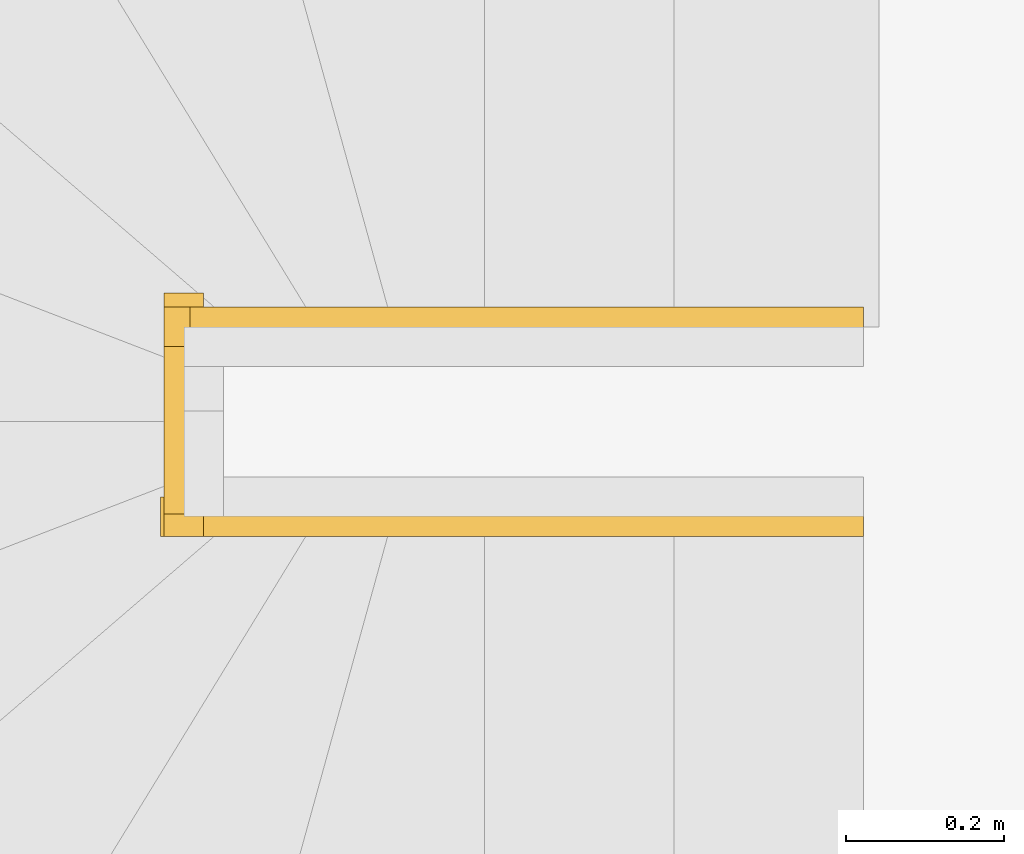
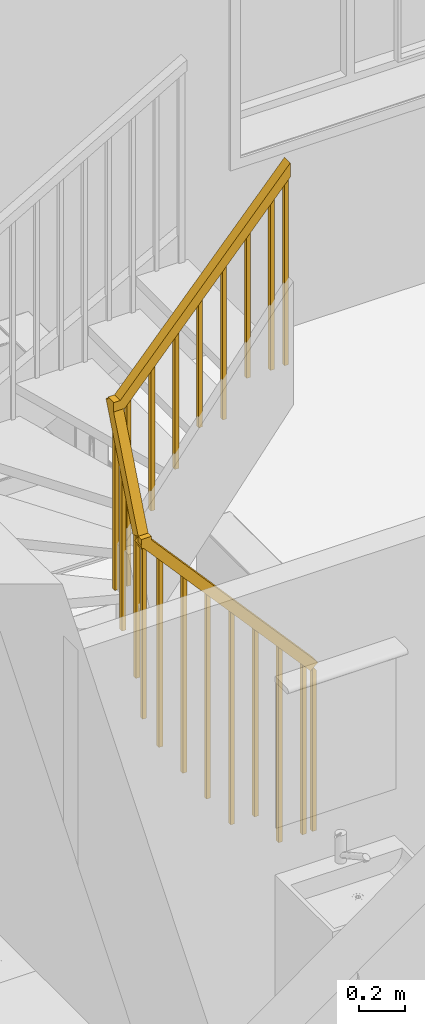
# One storey, part 26 of 65: 1 railing, 1 element without a shape of its own.
"""IFC2X3 building model written with IfcOpenShell, lengths in millimetres."""

from ifc_helpers import new_model, entity, si_unit, converted_unit, direction, frame, origin, place, context, subcontext, project, spatial, faceted_brep, material, type_object, element, aggregate, save


model = new_model("IFC2X3")

# Units and contexts
model_context = context("Model", 3, precision=0.01, world=origin(), true_north=direction((0.0, 1.0)))
body_context = subcontext(model_context, "Body", "Model", "MODEL_VIEW")
ifc_project = project(units=[si_unit("LENGTHUNIT", "METRE", prefix="MILLI"), si_unit("AREAUNIT", "SQUARE_METRE"), si_unit("VOLUMEUNIT", "CUBIC_METRE"), converted_unit("PLANEANGLEUNIT", "DEGREE", entity("IfcPlaneAngleMeasure", 0.017453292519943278), si_unit("PLANEANGLEUNIT", "RADIAN"), dimensions=[0, 0, 0, 0, 0, 0, 0])], contexts=[model_context])

# Site, building, storey
site_placement = place(None, origin())
site = spatial("IfcSite", under=ifc_project, at=site_placement, Name="Default", CompositionType="ELEMENT")
building_placement = place(site_placement, origin())
building = spatial("IfcBuilding", under=site, at=building_placement, CompositionType="ELEMENT")
storey_placement = place(building_placement, origin())
storey = spatial("IfcBuildingStorey", under=building, at=storey_placement, Name="Et. 1", CompositionType="ELEMENT", Elevation=0.0)

# Stair, railing
type_product = type_object("IfcTypeProduct", Name="Assembled Stair:Tretrapp - Åpne trinn m/ vanger")
stair_placement = place(storey_placement, origin())
stair = element("IfcStair", 1, at=stair_placement, inside=storey, type_object=type_product, Name="Assembled Stair:Stair", ShapeType="NOTDEFINED")
ifc_material = material(Name="Metall - Malt - MØRK GRÅ MATT")
railing_type = type_object("IfcRailingType", Name="Railing:900mm", PredefinedType="NOTDEFINED")
railing_placement = place(stair_placement, frame((17244.08765270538, 14144.751787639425, 178.73333333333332)))
railing = element("IfcRailing", 2, at=railing_placement, type_object=railing_type, material=ifc_material, Name="Railing:900mm", PredefinedType="NOTDEFINED", context=body_context, shape_type="Brep", body=[
    faceted_brep([(799.5697545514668, 275.8000000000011, 3249.8664435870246), (799.5697545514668, 275.8000000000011, 2323.5333333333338), (799.5697545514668, 255.8000000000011, 2323.5333333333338), (799.5697545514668, 255.8000000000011, 3249.8664435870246), (819.5697545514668, 255.8000000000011, 2323.5333333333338), (819.5697545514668, 255.8000000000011, 3272.3984052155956), (819.5697545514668, 275.8000000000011, 2323.5333333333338), (819.5697545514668, 275.8000000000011, 3272.3984052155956)], [[[0, 1, 2, 3]], [[3, 2, 4, 5]], [[5, 4, 6, 7]], [[1, 0, 7, 6]], [[0, 3, 5, 7]], [[2, 1, 6, 4]]]),
    faceted_brep([(679.5697545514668, 275.8000000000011, 3114.674673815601), (679.5697545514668, 275.8000000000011, 2323.5333333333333), (679.5697545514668, 255.8000000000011, 2323.5333333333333), (679.5697545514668, 255.8000000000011, 3114.674673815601), (699.5697545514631, 255.8000000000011, 2323.5333333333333), (699.5697545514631, 255.8000000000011, 3137.2066354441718), (699.5697545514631, 275.8000000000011, 2323.5333333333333), (699.5697545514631, 275.8000000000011, 3137.2066354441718)], [[[0, 1, 2, 3]], [[3, 2, 4, 5]], [[5, 4, 6, 7]], [[1, 0, 7, 6]], [[0, 3, 5, 7]], [[2, 1, 6, 4]]]),
    faceted_brep([(559.5697545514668, 275.8000000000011, 2979.482904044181), (559.5697545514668, 275.8000000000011, 2144.8000000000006), (559.5697545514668, 255.8000000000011, 2144.8000000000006), (559.5697545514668, 255.8000000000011, 2979.482904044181), (579.5697545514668, 255.8000000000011, 2144.8000000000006), (579.5697545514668, 255.8000000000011, 3002.0148656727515), (579.5697545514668, 275.8000000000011, 2144.8000000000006), (579.5697545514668, 275.8000000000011, 3002.0148656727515)], [[[0, 1, 2, 3]], [[3, 2, 4, 5]], [[5, 4, 6, 7]], [[1, 0, 7, 6]], [[0, 3, 5, 7]], [[2, 1, 6, 4]]]),
    faceted_brep([(439.56975455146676, 275.8000000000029, 2844.291134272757), (439.56975455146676, 275.8000000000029, 2144.8000000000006), (439.56975455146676, 255.8000000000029, 2144.8000000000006), (439.56975455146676, 255.8000000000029, 2844.291134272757), (459.56975455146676, 255.8000000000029, 2144.8000000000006), (459.56975455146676, 255.8000000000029, 2866.823095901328), (459.56975455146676, 275.8000000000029, 2144.8000000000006), (459.56975455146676, 275.8000000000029, 2866.823095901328)], [[[0, 1, 2, 3]], [[3, 2, 4, 5]], [[5, 4, 6, 7]], [[1, 0, 7, 6]], [[0, 3, 5, 7]], [[2, 1, 6, 4]]]),
    faceted_brep([(319.5697545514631, 275.8000000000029, 2709.099364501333), (319.5697545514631, 275.8000000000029, 1966.0666666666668), (319.5697545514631, 255.8000000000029, 1966.0666666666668), (319.5697545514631, 255.8000000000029, 2709.099364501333), (339.5697545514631, 255.8000000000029, 1966.0666666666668), (339.5697545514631, 255.8000000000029, 2731.6313261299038), (339.5697545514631, 275.8000000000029, 1966.0666666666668), (339.5697545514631, 275.8000000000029, 2731.6313261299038)], [[[0, 1, 2, 3]], [[3, 2, 4, 5]], [[5, 4, 6, 7]], [[1, 0, 7, 6]], [[0, 3, 5, 7]], [[2, 1, 6, 4]]]),
    faceted_brep([(199.56975455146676, 275.8000000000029, 2573.907594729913), (199.56975455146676, 275.8000000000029, 1787.333333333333), (199.56975455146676, 255.8000000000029, 1787.333333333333), (199.56975455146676, 255.8000000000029, 2573.907594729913), (219.56975455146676, 255.8000000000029, 1787.333333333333), (219.56975455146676, 255.8000000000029, 2596.4395563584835), (219.56975455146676, 275.8000000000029, 1787.333333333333), (219.56975455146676, 275.8000000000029, 2596.4395563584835)], [[[0, 1, 2, 3]], [[3, 2, 4, 5]], [[5, 4, 6, 7]], [[1, 0, 7, 6]], [[0, 3, 5, 7]], [[2, 1, 6, 4]]]),
    faceted_brep([(79.56975455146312, 275.8000000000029, 2438.7158249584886), (79.56975455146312, 275.8000000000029, 1429.8666666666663), (79.56975455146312, 255.8000000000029, 1429.8666666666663), (79.56975455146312, 255.8000000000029, 2438.7158249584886), (99.56975455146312, 255.8000000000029, 1429.8666666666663), (99.56975455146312, 255.8000000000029, 2461.2477865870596), (99.56975455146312, 275.8000000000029, 1429.8666666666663), (99.56975455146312, 275.8000000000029, 2461.2477865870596)], [[[0, 1, 2, 3]], [[3, 2, 4, 5]], [[5, 4, 6, 7]], [[1, 0, 7, 6]], [[0, 3, 5, 7]], [[2, 1, 6, 4]]]),
    faceted_brep([(19.569754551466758, 195.0, 2224.260740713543), (19.569754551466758, 195.0, 1251.1333333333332), (39.56975455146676, 195.0, 1251.1333333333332), (39.56975455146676, 195.0, 2224.260740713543), (39.56975455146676, 215.0, 1251.1333333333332), (39.56975455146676, 215.0, 2273.9088888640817), (19.569754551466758, 215.0, 1251.1333333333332), (19.569754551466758, 215.0, 2273.9088888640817)], [[[0, 1, 2, 3]], [[3, 2, 4, 5]], [[5, 4, 6, 7]], [[1, 0, 7, 6]], [[0, 3, 5, 7]], [[2, 1, 6, 4]]]),
    faceted_brep([(19.569754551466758, 75.0, 1926.3718518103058), (19.569754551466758, 75.0, 1072.4000000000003), (39.56975455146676, 75.0, 1072.4000000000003), (39.56975455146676, 75.0, 1926.3718518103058), (39.56975455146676, 95.0, 1072.4000000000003), (39.56975455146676, 95.0, 1976.019999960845), (19.569754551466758, 95.0, 1072.4000000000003), (19.569754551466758, 95.0, 1976.019999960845)], [[[0, 1, 2, 3]], [[3, 2, 4, 5]], [[5, 4, 6, 7]], [[1, 0, 7, 6]], [[0, 3, 5, 7]], [[2, 1, 6, 4]]]),
    faceted_brep([(120.4630597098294, 15.0, 1717.4805225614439), (120.4630597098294, 15.0, 714.9333333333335), (120.4630597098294, 35.0, 714.9333333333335), (120.4630597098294, 35.0, 1717.4805225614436), (100.46305970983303, 35.0, 714.9333333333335), (100.46305970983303, 35.0, 1740.0124841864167), (100.46305970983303, 15.0, 714.9333333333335), (100.46305970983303, 15.0, 1740.0124841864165)], [[[0, 1, 2, 3]], [[3, 2, 4, 5]], [[5, 4, 6, 7]], [[1, 0, 7, 6]], [[0, 3, 5, 7]], [[2, 1, 6, 4]]]),
    faceted_brep([(240.46305970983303, 15.0, 1582.2887528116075), (240.46305970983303, 15.0, 536.2000000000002), (240.46305970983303, 35.0, 536.2000000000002), (240.46305970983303, 35.0, 1582.288752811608), (220.46305970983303, 35.0, 536.2000000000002), (220.46305970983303, 35.0, 1604.8207144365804), (220.46305970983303, 15.0, 536.2000000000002), (220.46305970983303, 15.0, 1604.8207144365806)], [[[0, 1, 2, 3]], [[3, 2, 4, 5]], [[5, 4, 6, 7]], [[1, 0, 7, 6]], [[0, 3, 5, 7]], [[2, 1, 6, 4]]]),
    faceted_brep([(360.4630597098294, 15.0, 1447.0969830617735), (360.4630597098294, 15.0, 357.4666666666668), (360.4630597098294, 35.0, 357.4666666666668), (360.4630597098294, 35.0, 1447.0969830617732), (340.4630597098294, 35.0, 357.4666666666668), (340.4630597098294, 35.0, 1469.628944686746), (340.4630597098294, 15.0, 357.4666666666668), (340.4630597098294, 15.0, 1469.628944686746)], [[[0, 1, 2, 3]], [[3, 2, 4, 5]], [[5, 4, 6, 7]], [[1, 0, 7, 6]], [[0, 3, 5, 7]], [[2, 1, 6, 4]]]),
    faceted_brep([(480.46305970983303, 15.0, 1311.9052133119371), (480.46305970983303, 15.0, 178.73333333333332), (480.46305970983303, 35.0, 178.73333333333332), (480.46305970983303, 35.0, 1311.9052133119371), (460.46305970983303, 35.0, 178.73333333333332), (460.46305970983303, 35.0, 1334.4371749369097), (460.46305970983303, 15.0, 178.73333333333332), (460.46305970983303, 15.0, 1334.4371749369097)], [[[0, 1, 2, 3]], [[3, 2, 4, 5]], [[5, 4, 6, 7]], [[1, 0, 7, 6]], [[0, 3, 5, 7]], [[2, 1, 6, 4]]]),
    faceted_brep([(600.463059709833, 15.0, 1176.7134435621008), (600.463059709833, 15.0, 178.73333333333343), (600.463059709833, 35.0, 178.73333333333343), (600.463059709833, 35.0, 1176.713443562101), (580.463059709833, 35.0, 178.73333333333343), (580.463059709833, 35.0, 1199.2454051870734), (580.463059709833, 15.0, 178.73333333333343), (580.463059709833, 15.0, 1199.2454051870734)], [[[0, 1, 2, 3]], [[3, 2, 4, 5]], [[5, 4, 6, 7]], [[1, 0, 7, 6]], [[0, 3, 5, 7]], [[2, 1, 6, 4]]]),
    faceted_brep([(720.4630597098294, 15.0, 1041.521673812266), (720.4630597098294, 15.0, 0.0), (720.4630597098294, 35.0, 0.0), (720.4630597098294, 35.0, 1041.521673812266), (700.463059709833, 35.0, 0.0), (700.463059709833, 35.0, 1064.0536354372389), (700.463059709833, 15.0, 0.0), (700.463059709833, 15.0, 1064.0536354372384)], [[[0, 1, 2, 3]], [[3, 2, 4, 5]], [[5, 4, 6, 7]], [[1, 0, 7, 6]], [[0, 3, 5, 7]], [[2, 1, 6, 4]]]),
    faceted_brep([(840.463059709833, 15.0, 906.3299040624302), (840.463059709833, 15.0, 0.0), (840.463059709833, 35.0, 0.0), (840.463059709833, 35.0, 906.3299040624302), (820.463059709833, 35.0, 0.0), (820.463059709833, 35.0, 928.8618656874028), (820.463059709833, 15.0, 0.0), (820.463059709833, 15.0, 928.8618656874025)], [[[0, 1, 2, 3]], [[3, 2, 4, 5]], [[5, 4, 6, 7]], [[1, 0, 7, 6]], [[0, 3, 5, 7]], [[2, 1, 6, 4]]]),
    faceted_brep([(19.569754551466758, 255.8000000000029, 2391.200553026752), (19.569754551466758, 255.8000000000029, 1429.8666666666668), (39.56975455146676, 255.8000000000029, 1429.8666666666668), (39.56975455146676, 255.8000000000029, 2391.200553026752), (39.56975455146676, 275.8000000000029, 1429.8666666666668), (39.56975455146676, 275.8000000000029, 2391.200553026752), (19.569754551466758, 275.8000000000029, 1429.8666666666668), (19.569754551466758, 275.8000000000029, 2391.200553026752)], [[[0, 1, 2, 3]], [[3, 2, 4, 5]], [[5, 4, 6, 7]], [[1, 0, 7, 6]], [[0, 3, 5, 7]], [[2, 1, 6, 4]]]),
    faceted_brep([(39.56975455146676, 15.0, 1811.0661135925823), (39.56975455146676, 15.0, 893.6666666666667), (39.56975455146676, 35.0, 893.6666666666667), (39.56975455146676, 35.0, 1811.0661135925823), (19.569754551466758, 35.0, 893.6666666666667), (19.569754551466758, 35.0, 1811.0661135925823), (19.569754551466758, 15.0, 893.6666666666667), (19.569754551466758, 15.0, 1811.0661135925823)], [[[0, 1, 2, 3]], [[3, 2, 4, 5]], [[5, 4, 6, 7]], [[1, 0, 7, 6]], [[0, 3, 5, 7]], [[2, 1, 6, 4]]]),
    faceted_brep([(870.4630595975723, 275.8000000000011, 3329.734705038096), (870.4630595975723, 275.8000000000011, 2323.5333333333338), (870.4630595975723, 255.8000000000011, 2323.5333333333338), (870.4630595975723, 255.8000000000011, 3329.734705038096), (890.4630595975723, 255.8000000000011, 2323.5333333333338), (890.4630595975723, 255.8000000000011, 3352.266666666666), (890.4630595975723, 275.8000000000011, 2323.5333333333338), (890.4630595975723, 275.8000000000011, 3352.266666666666)], [[[0, 1, 2, 3]], [[3, 2, 4, 5]], [[5, 4, 6, 7]], [[1, 0, 7, 6]], [[0, 3, 5, 7]], [[2, 1, 6, 4]]]),
    faceted_brep([(890.463059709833, 15.0, 850.0), (890.463059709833, 15.0, 0.0), (890.463059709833, 35.0, 0.0), (890.463059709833, 35.0, 850.0), (870.463059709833, 35.0, 0.0), (870.463059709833, 35.0, 872.5319616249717), (870.463059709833, 15.0, 0.0), (870.463059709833, 15.0, 872.5319616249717)], [[[0, 1, 2, 3]], [[3, 2, 4, 5]], [[5, 4, 6, 7]], [[1, 0, 7, 6]], [[0, 3, 5, 7]], [[2, 1, 6, 4]]]),
    faceted_brep([(890.463059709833, 50.0, 900.0), (890.463059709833, 0.0, 900.0), (853.069190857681, 0.0, 866.8081550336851), (853.069190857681, 50.0, 866.8081550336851), (37.39386885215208, 50.0, 1861.066113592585), (0.0, 50.0, 1827.8742686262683), (0.0, 0.0, 1827.874268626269), (37.39386885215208, 0.0, 1861.0661135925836)], [[[0, 1, 2, 3]], [[4, 5, 6, 7]], [[1, 0, 4, 7]], [[2, 1, 7, 6]], [[3, 2, 6, 5]], [[0, 3, 5, 4]]]),
    faceted_brep([(37.39386885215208, 50.0, 1861.0661135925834), (37.39386885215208, 0.0, 1861.0661135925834), (37.39386885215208, 0.0, 1811.0661135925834), (37.39386885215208, 50.0, 1811.0661135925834), (29.569754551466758, 50.0, 1861.0661135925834), (29.569754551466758, 50.0, 1811.0661135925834), (29.569754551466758, 0.0, 1811.0661135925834), (29.569754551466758, 0.0, 1861.0661135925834)], [[[0, 1, 2, 3]], [[4, 5, 6, 7]], [[1, 0, 4, 7]], [[2, 1, 7, 6]], [[3, 2, 6, 5]], [[0, 3, 5, 4]]]),
    faceted_brep([(54.56975455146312, 0.0, 1861.0661135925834), (4.56975455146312, 0.0, 1861.0661135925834), (4.569754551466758, 0.0, 1811.0661135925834), (54.56975455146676, 0.0, 1811.0661135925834), (54.56975455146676, 28.55084025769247, 1861.0661135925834), (54.56975455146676, 28.55084025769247, 1811.0661135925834), (4.56975455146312, 28.55084025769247, 1811.0661135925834), (4.56975455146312, 28.55084025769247, 1861.0661135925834)], [[[0, 1, 2, 3]], [[4, 5, 6, 7]], [[1, 0, 4, 7]], [[2, 1, 7, 6]], [[3, 2, 6, 5]], [[0, 3, 5, 4]]]),
    faceted_brep([(54.56975455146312, 28.55084025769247, 1861.0661135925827), (4.56975455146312, 28.55084025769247, 1861.0661135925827), (4.569754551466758, 74.92920139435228, 1842.3832974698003), (54.56975455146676, 74.92920139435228, 1842.3832974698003), (54.56975455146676, 262.24915974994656, 2441.200553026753), (54.56975455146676, 308.62752088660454, 2422.51773690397), (4.56975455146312, 308.62752088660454, 2422.51773690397), (4.56975455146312, 262.24915974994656, 2441.200553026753)], [[[0, 1, 2, 3]], [[4, 5, 6, 7]], [[1, 0, 4, 7]], [[2, 1, 7, 6]], [[3, 2, 6, 5]], [[0, 3, 5, 4]]]),
    faceted_brep([(4.56975455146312, 240.80000000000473, 2441.200553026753), (4.56975455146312, 290.80000000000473, 2441.200553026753), (4.56975455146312, 290.8000000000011, 2391.200553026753), (4.56975455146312, 240.8000000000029, 2391.200553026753), (37.393868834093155, 240.8000000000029, 2441.200553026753), (37.39386883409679, 290.80000000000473, 2441.200553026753), (59.86834867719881, 290.80000000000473, 2391.200553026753), (59.86834867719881, 240.8000000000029, 2391.200553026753), (890.4630595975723, 240.79999999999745, 3402.2666666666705), (890.4630595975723, 240.79999999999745, 3326.946960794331), (890.4630595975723, 290.7999999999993, 3326.946960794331), (890.4630595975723, 290.7999999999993, 3402.2666666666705)], [[[0, 1, 2, 3]], [[1, 0, 4, 5]], [[2, 1, 5, 6]], [[3, 2, 6, 7]], [[0, 3, 7, 4]], [[8, 9, 10, 11]], [[5, 4, 8, 11]], [[6, 5, 11, 10]], [[7, 6, 10, 9]], [[4, 7, 9, 8]]]),
    faceted_brep([(54.56975455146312, 262.24915974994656, 2441.200553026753), (4.56975455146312, 262.24915974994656, 2441.200553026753), (4.569754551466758, 262.24915974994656, 2391.200553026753), (54.56975455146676, 262.24915974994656, 2391.200553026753), (54.56975455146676, 265.8000000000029, 2441.200553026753), (54.56975455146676, 265.8000000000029, 2391.200553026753), (4.56975455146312, 265.8000000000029, 2391.200553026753), (4.56975455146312, 265.8000000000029, 2441.200553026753)], [[[0, 1, 2, 3]], [[4, 5, 6, 7]], [[1, 0, 4, 7]], [[2, 1, 7, 6]], [[3, 2, 6, 5]], [[0, 3, 5, 4]]]),
])
aggregate(stair, [railing])

save(model, "model.ifc")
